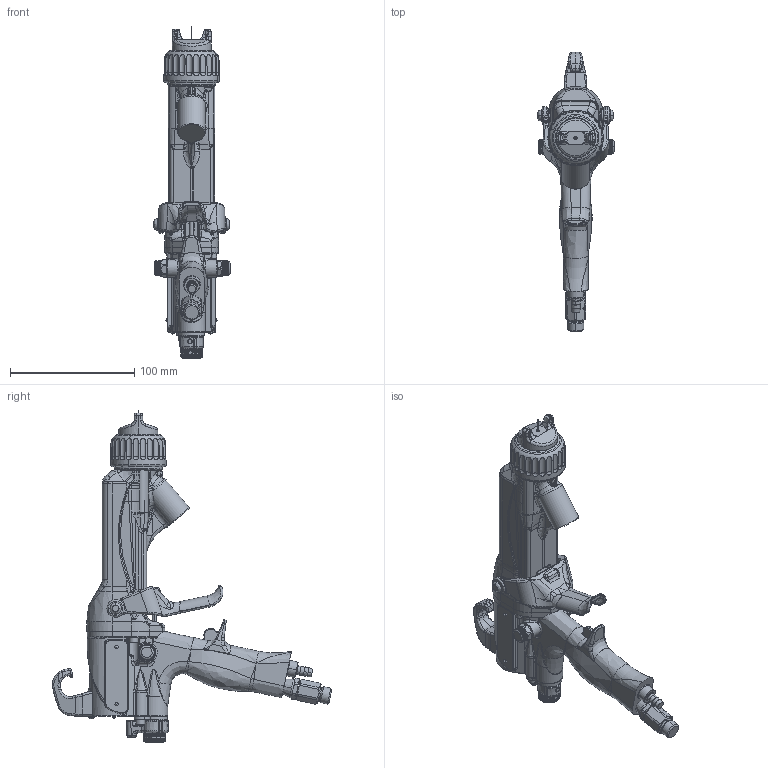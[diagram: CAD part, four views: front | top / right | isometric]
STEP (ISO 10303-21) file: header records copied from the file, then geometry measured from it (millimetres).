
FILE_DESCRIPTION((''),'2;1');
FILE_NAME('L60T17-EN-P_PRT','2020-03-05T07:52:51',('qusrh3'),(''),'CREO PARAMETRIC BY PTC INC, 2019030','CREO PARAMETRIC BY PTC INC, 2019030','');
FILE_SCHEMA(('CONFIG_CONTROL_DESIGN'));
Products named in the file (1): L60T17-EN-P_PRT
Bounding box: 61.3 x 224.84 x 267.23 mm (x, y, z)
Surface area: 81702 mm2 (no closed solid volume)
Topology: 0 solids, 55 shells, 2491 faces, 6988 edges, 4324 vertices
Faces by surface type: bspline 827, cylinder 628, plane 513, torus 230, cone 229, sphere 56, extrusion 8
Entity records: 126915 total; most frequent: CARTESIAN_POINT 71308, ORIENTED_EDGE 12588, DIRECTION 9700, EDGE_CURVE 6979, VERTEX_POINT 4324, AXIS2_PLACEMENT_3D 3939, B_SPLINE_CURVE_WITH_KNOTS 2890, EDGE_LOOP 2491
